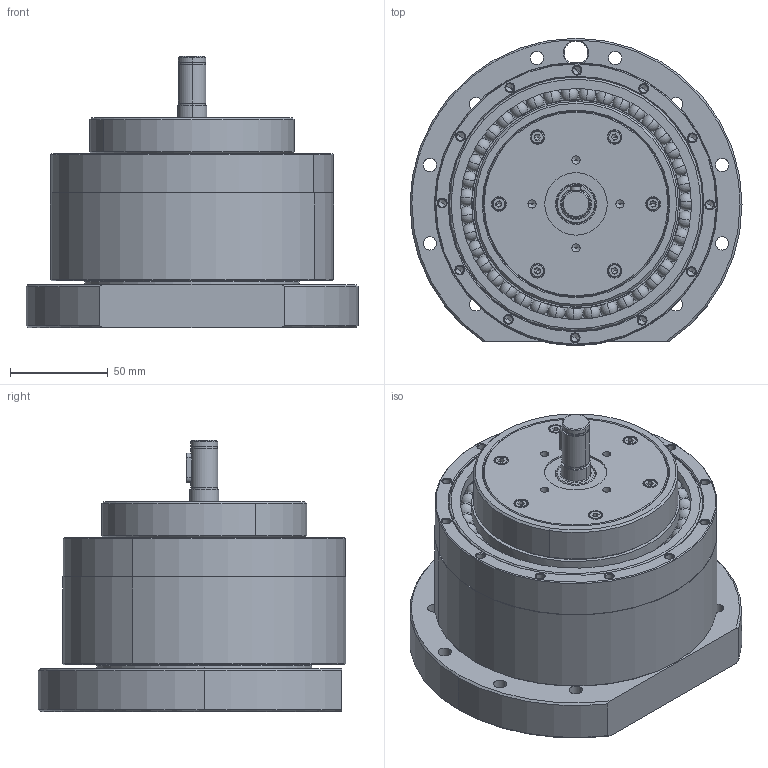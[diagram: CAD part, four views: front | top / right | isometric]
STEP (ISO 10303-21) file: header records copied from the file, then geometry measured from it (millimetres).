
FILE_DESCRIPTION (( 'STEP AP203' ), '1' );
FILE_NAME ('PGV145-32.STEP', '2022-09-21T02:01:44', ( '' ), ( '' ), 'SwSTEP 2.0', 'SolidWorks 2020', '' );
FILE_SCHEMA (( 'CONFIG_CONTROL_DESIGN' ));
Length unit declared in the file: millimetre
Products named in the file (1): PGV145-32
Bounding box: 170 x 157.5 x 138.9 mm (x, y, z)
Volume: 1586980.4 mm3; surface area: 184965.7 mm2
Topology: 2 solids, 23 shells, 1079 faces, 3833 edges, 2508 vertices
Faces by surface type: torus 284, plane 247, cylinder 235, cone 157, sphere 156
Entity records: 43967 total; most frequent: CARTESIAN_POINT 14637, ORIENTED_EDGE 6634, DIRECTION 5880, EDGE_CURVE 3317, AXIS2_PLACEMENT_3D 2587, VERTEX_POINT 2196, CIRCLE 1507, EDGE_LOOP 1205
